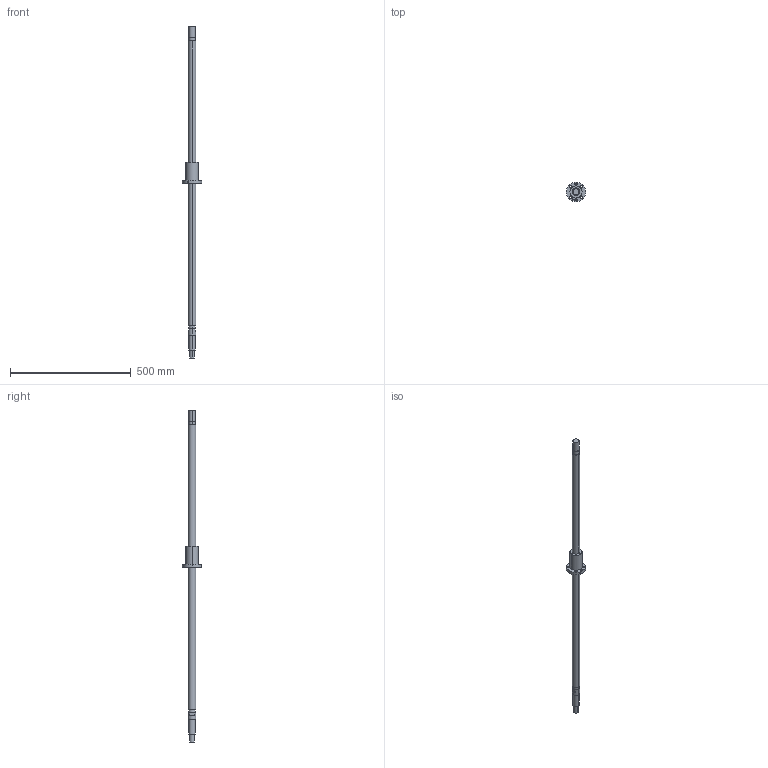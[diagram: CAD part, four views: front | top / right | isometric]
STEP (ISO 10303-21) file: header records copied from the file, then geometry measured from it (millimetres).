
FILE_DESCRIPTION((''),'2;1');
FILE_NAME('ASM0001_ASM','2008-04-11T',('cmliu'),(''),'PRO/ENGINEER BY PARAMETRIC TECHNOLOGY CORPORATION, 2004110','PRO/ENGINEER BY PARAMETRIC TECHNOLOGY CORPORATION, 2004110','');
FILE_SCHEMA(('CONFIG_CONTROL_DESIGN'));
Length unit declared in the file: millimetre
Products named in the file (3): 3232; 32-32K2; ASM0001_ASM
Assembly tree (2 placements, depth 2):
  ASM0001_ASM
    3232
    32-32K2
Bounding box: 80 x 80 x 1376 mm (x, y, z)
Volume: 1212102.9 mm3; surface area: 172555.5 mm2
Topology: 2 solids, 2 shells, 67 faces, 156 edges, 104 vertices
Faces by surface type: cylinder 45, plane 22
Entity records: 2163 total; most frequent: CARTESIAN_POINT 426, DIRECTION 382, ORIENTED_EDGE 312, AXIS2_PLACEMENT_3D 162, EDGE_CURVE 156, VERTEX_POINT 104, EDGE_LOOP 94, CIRCLE 90
